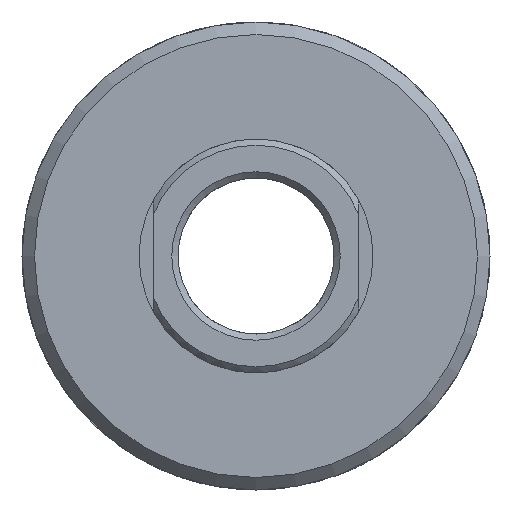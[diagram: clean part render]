
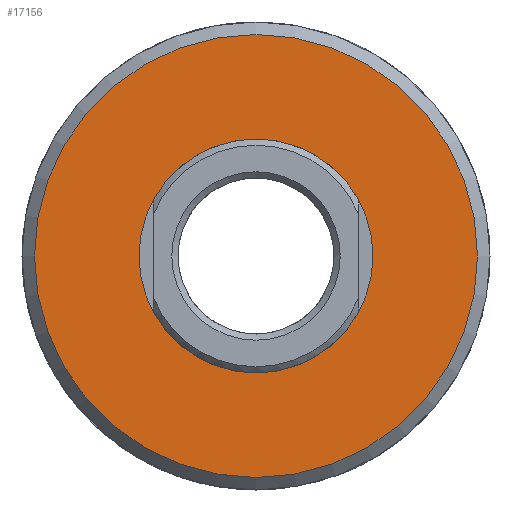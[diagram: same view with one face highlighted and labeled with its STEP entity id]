
A CAD part, front view. The second image highlights one B-rep face of the part: STEP entity #17156.
In plain terms, the highlighted planar face has unit normal (0, -1, 0) as drawn and (0, 0, -1) by its records, which use the part's own axes.
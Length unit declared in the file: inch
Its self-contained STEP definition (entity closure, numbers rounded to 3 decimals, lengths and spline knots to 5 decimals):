
#17099=CARTESIAN_POINT('',(0.355,0.,0.0));
#17100=VERTEX_POINT('',#17099);
#17101=CARTESIAN_POINT('',(0.,0.,0.0));
#17102=DIRECTION('',(0.0,0.0,1.0));
#17103=DIRECTION('',(-1.0,0.0,0.0));
#17104=AXIS2_PLACEMENT_3D('',#17101,#17102,#17103);
#17105=CIRCLE('',#17104,0.355);
#17106=EDGE_CURVE('',#17100,#17100,#17105,.T.);
#17137=CARTESIAN_POINT('',(0.,0.,0.0));
#17138=DIRECTION('',(0.0,0.0,-1.0));
#17139=DIRECTION('',(-1.0,0.0,0.0));
#17140=AXIS2_PLACEMENT_3D('',#17137,#17138,#17139);
#17141=PLANE('',#17140);
#17142=ORIENTED_EDGE('',*,*,#17106,.F.);
#17143=EDGE_LOOP('',(#17142));
#17144=FACE_OUTER_BOUND('',#17143,.T.);
#17145=CARTESIAN_POINT('',(0.1875,0.,0.0));
#17146=VERTEX_POINT('',#17145);
#17147=CARTESIAN_POINT('',(0.,0.,0.0));
#17148=DIRECTION('',(0.0,0.0,1.0));
#17149=DIRECTION('',(-1.0,0.0,0.0));
#17150=AXIS2_PLACEMENT_3D('',#17147,#17148,#17149);
#17151=CIRCLE('',#17150,0.1875);
#17152=EDGE_CURVE('',#17146,#17146,#17151,.T.);
#17153=ORIENTED_EDGE('',*,*,#17152,.T.);
#17154=EDGE_LOOP('',(#17153));
#17155=FACE_BOUND('',#17154,.T.);
#17156=ADVANCED_FACE('',(#17144,#17155),#17141,.T.);
